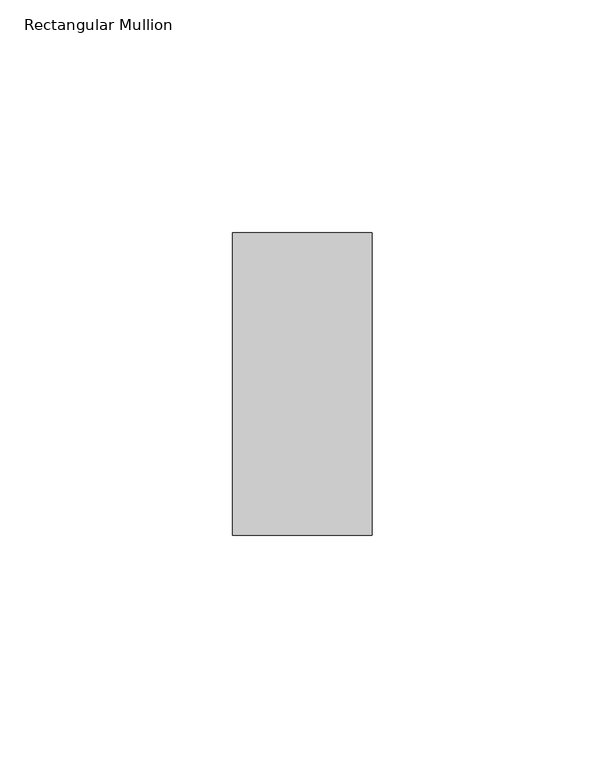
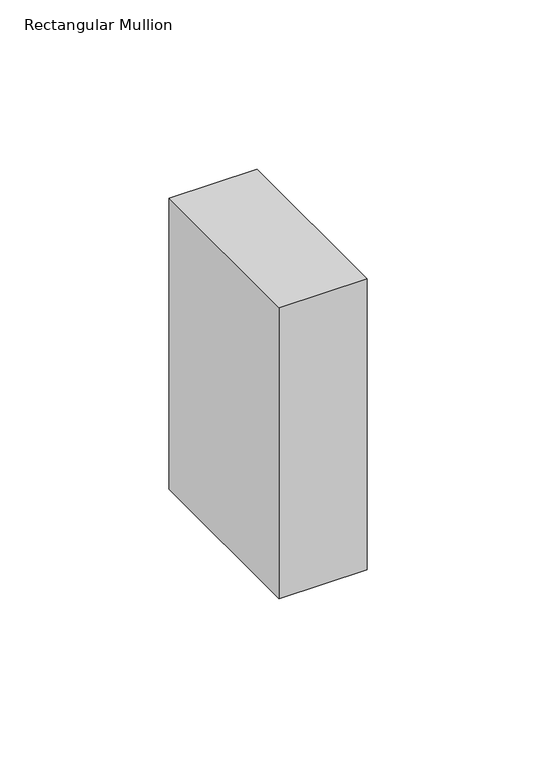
"""IFC4 building model written with IfcOpenShell, lengths in millimetres: member geometry, Rectangular Mullion : Batten_Timber_Modinex_Austratus_Grid_Fascia_30x65_AlaskanYellowCedar."""

import ifcopenshell
import ifcopenshell.guid

model = None  # the IFC model being written
_history = None  # IfcOwnerHistory: only IFC2X3 demands one
_inside = {}  # id of a spatial element -> (the spatial element, [elements in it])
_under = {}  # id of a project, library or spatial element -> (it, [spatial elements below it])
_declared = {}  # id of a project -> (the project, [libraries it declares])
_typed = {}  # id of a type object -> (the type object, [elements of that type])
_made_of = {}  # id of a material, layer set ... -> (it, [elements and type objects made of it])


def new_model(schema):
    """Start an empty IFC model of exactly this schema.

    Asked for "IFC4X3", IfcOpenShell would pick the latest addendum, in which some entities
    have other attributes; the version numbers below select the first issue.
    IFC2X3 requires an IfcOwnerHistory on every rooted entity: one is made here for all.
    """
    global model, _history
    if schema == "IFC4X3":
        model = ifcopenshell.file(schema_version=(4, 3, 0, 0))
    else:
        model = ifcopenshell.file(schema=schema)
    _inside.clear()
    _under.clear()
    _declared.clear()
    _typed.clear()
    _made_of.clear()
    _history = None
    if model.schema == "IFC2X3":
        org = make("IfcOrganization", Name="unknown")
        user = make(
            "IfcPersonAndOrganization",
            ThePerson=make("IfcPerson", FamilyName="unknown"),
            TheOrganization=org,
        )
        app = make(
            "IfcApplication",
            ApplicationDeveloper=org,
            Version="unknown",
            ApplicationFullName="unknown",
            ApplicationIdentifier="unknown",
        )
        _history = make(
            "IfcOwnerHistory",
            OwningUser=user,
            OwningApplication=app,
            ChangeAction="ADDED",
            CreationDate=0,
        )
    return model


def make(cls, **values):
    """One entity of the class cls with the attributes given. An attribute that is None is left unset."""
    return model.create_entity(
        cls, **{name: value for name, value in values.items() if value is not None}
    )


def rooted(cls, **values):
    """An entity with a GlobalId (a new one), such as an element, a storey or a relation."""
    return make(cls, GlobalId=ifcopenshell.guid.new(), OwnerHistory=_history, **values)


def si_unit(unit_type, name, prefix=None):
    """IfcSIUnit, for example si_unit("LENGTHUNIT", "METRE", prefix="MILLI")."""
    return make("IfcSIUnit", UnitType=unit_type, Prefix=prefix, Name=name)


def assignment(units):
    """IfcUnitAssignment: the units of a project."""
    return None if units is None else make("IfcUnitAssignment", Units=units)


def point(xyz):
    """IfcCartesianPoint."""
    return None if xyz is None else make("IfcCartesianPoint", Coordinates=xyz)


def direction(xyz):
    """IfcDirection."""
    return None if xyz is None else make("IfcDirection", DirectionRatios=xyz)


def frame(location, z_axis=None, x_axis=None):
    """IfcAxis2Placement3D, a coordinate frame: its origin and axes. An axis left out is left unset."""
    return make(
        "IfcAxis2Placement3D",
        Location=point(location),
        Axis=direction(z_axis),
        RefDirection=direction(x_axis),
    )


def origin():
    """The frame at (0, 0, 0) with its axes left unset."""
    return frame((0.0, 0.0, 0.0))


def place(relative_to, where):
    """IfcLocalPlacement: puts the frame where relative to a parent placement (None: the world)."""
    return make(
        "IfcLocalPlacement", PlacementRelTo=relative_to, RelativePlacement=where
    )


def context(
    kind, dimensions, precision=None, world=None, true_north=None, identifier=None
):
    """IfcGeometricRepresentationContext, for example the 3D "Model" context."""
    return make(
        "IfcGeometricRepresentationContext",
        ContextIdentifier=identifier,
        ContextType=kind,
        CoordinateSpaceDimension=dimensions,
        Precision=precision,
        WorldCoordinateSystem=world,
        TrueNorth=true_north,
    )


def project(units=None, contexts=None):
    """IfcProject with its units and contexts."""
    return rooted(
        "IfcProject",
        Name="project",
        RepresentationContexts=contexts,
        UnitsInContext=assignment(units),
    )


def spatial(cls, under=None, at=None, **own):
    """A site, building, storey or space (cls), placed at a placement, below another one or the project."""
    s = rooted(cls, ObjectPlacement=at, **own)
    if under is not None:
        _under.setdefault(under.id(), (under, []))[1].append(s)
    return s


def polyline(points):
    """IfcPolyline through the points."""
    return make("IfcPolyline", Points=[point(p) for p in points])


def outline(outer, holes=None, kind="AREA"):
    """IfcArbitraryClosedProfileDef: a profile drawn as a closed curve; with holes, ...WithVoids."""
    if holes is None:
        return make("IfcArbitraryClosedProfileDef", ProfileType=kind, OuterCurve=outer)
    return make(
        "IfcArbitraryProfileDefWithVoids",
        ProfileType=kind,
        OuterCurve=outer,
        InnerCurves=holes,
    )


def extrude(swept, where, along, depth):
    """IfcExtrudedAreaSolid: the profile swept, set in the frame where, extruded along a direction by depth."""
    return make(
        "IfcExtrudedAreaSolid",
        SweptArea=swept,
        Position=where,
        ExtrudedDirection=direction(along),
        Depth=depth,
    )


def shape(context_of_items, identifier, shape_type, items):
    """IfcShapeRepresentation: the items that make up one representation, for example the "Body"."""
    return make(
        "IfcShapeRepresentation",
        ContextOfItems=context_of_items,
        RepresentationIdentifier=identifier,
        RepresentationType=shape_type,
        Items=items,
    )


def source(mapping_origin, context_of_items, identifier, shape_type, items):
    """IfcRepresentationMap: a shape defined once, which mapped items show again and again."""
    return make(
        "IfcRepresentationMap",
        MappingOrigin=mapping_origin,
        MappedRepresentation=shape(context_of_items, identifier, shape_type, items),
    )


def transform(
    local_origin,
    x_axis=None,
    y_axis=None,
    z_axis=None,
    scale=None,
    scale2=None,
    scale3=None,
    uniform=True,
):
    """IfcCartesianTransformationOperator3D, or its non-uniform kind. x_axis, y_axis, z_axis: its Axis1, 2, 3."""
    if uniform:
        return make(
            "IfcCartesianTransformationOperator3D",
            Axis1=direction(x_axis),
            Axis2=direction(y_axis),
            LocalOrigin=point(local_origin),
            Scale=scale,
            Axis3=direction(z_axis),
        )
    return make(
        "IfcCartesianTransformationOperator3DnonUniform",
        Axis1=direction(x_axis),
        Axis2=direction(y_axis),
        LocalOrigin=point(local_origin),
        Scale=scale,
        Axis3=direction(z_axis),
        Scale2=scale2,
        Scale3=scale3,
    )


def mapped(mapping_source, mapping_target):
    """IfcMappedItem: shows the shape of a source again, moved by a transform."""
    return make(
        "IfcMappedItem", MappingSource=mapping_source, MappingTarget=mapping_target
    )


def made_of(thing, what):
    """Note that an element or type object is made of a material, layer set ...; save() writes the relation."""
    if what is not None:
        _made_of.setdefault(what.id(), (what, []))[1].append(thing)
    return thing


def element(
    cls,
    number,
    at=None,
    inside=None,
    cuts=None,
    type_object=None,
    material=None,
    context=None,
    identifier="Body",
    shape_type=None,
    held_by="IfcProductDefinitionShape",
    body=None,
    shapes=None,
    **own,
):
    """One element of the class cls, such as IfcWall. Its Tag is "e" and its number.

    at: its placement. inside: the storey or other place that contains it. cuts: it is an
    opening in that element (IfcRelVoidsElement). A single representation is given by context,
    identifier, shape_type and body (its items); several are given by shapes. held_by: the class
    of the entity that holds the representations. save() writes the other relations.
    """
    e = rooted(cls, Tag="e%d" % number, ObjectPlacement=at, **own)
    if body is not None:
        shapes = [shape(context, identifier, shape_type, body)]
    if shapes is not None:
        e.Representation = make(held_by, Representations=shapes)
    if inside is not None:
        _inside.setdefault(inside.id(), (inside, []))[1].append(e)
    if cuts is not None:
        rooted(
            "IfcRelVoidsElement", RelatingBuildingElement=cuts, RelatedOpeningElement=e
        )
    if type_object is not None:
        _typed.setdefault(type_object.id(), (type_object, []))[1].append(e)
    return made_of(e, material)


def aggregate(whole, parts):
    """IfcRelAggregates: a whole, such as a stair, and the parts it consists of."""
    return rooted("IfcRelAggregates", RelatingObject=whole, RelatedObjects=parts)


def save(model, path):
    """Write the relations noted so far, then the file.

    IfcRelAggregates (storeys below a building ...), IfcRelContainedInSpatialStructure (elements
    in a storey), IfcRelDefinesByType, IfcRelAssociatesMaterial and IfcRelDeclares: one each for
    every whole, place, type object, material and project.
    """
    for whole, parts in _under.values():
        aggregate(whole, parts)
    for where, things in _inside.values():
        rooted(
            "IfcRelContainedInSpatialStructure",
            RelatedElements=things,
            RelatingStructure=where,
        )
    for kind, things in _typed.values():
        rooted("IfcRelDefinesByType", RelatedObjects=things, RelatingType=kind)
    for what, things in _made_of.values():
        rooted("IfcRelAssociatesMaterial", RelatedObjects=things, RelatingMaterial=what)
    for by, libraries in _declared.values():
        rooted("IfcRelDeclares", RelatingContext=by, RelatedDefinitions=libraries)
    model.write(path)


def rectangular_mullion_27b03f3e(model_context):
    return source(origin(), model_context, "Body", "SweptSolid", [
        extrude(outline(polyline([(0.0, 65.0), (0.0, 0.0), (-30.0, 0.0), (-30.0, 65.0), (0.0, 65.0)])), frame((0.0, 0.0, -105.0000003), z_axis=(0.0, 0.0, 1.0), x_axis=(1.0, 0.0, 0.0)), (0.0, 0.0, 1.0), 105.0000003),
    ])


if __name__ == "__main__":
    model = new_model("IFC4")
    model_context = context("Model", 3, world=origin())
    ifc_project = project(units=[si_unit("LENGTHUNIT", "METRE", prefix="MILLI")], contexts=[model_context])
    site = spatial("IfcSite", under=ifc_project)
    building = spatial("IfcBuilding", under=site)
    placement = place(None, origin())
    rectangular_mullion_shape = rectangular_mullion_27b03f3e(model_context)
    element("IfcMember", 1, ObjectType="Rectangular Mullion : Batten_Timber_Modinex_Austratus_Grid_Fascia_30x65_AlaskanYellowCedar", at=placement, inside=building, context=model_context, shape_type="MappedRepresentation", body=[
        mapped(rectangular_mullion_shape, transform((0.0, 0.0, 0.0), x_axis=(1.0, 0.0, 0.0), y_axis=(0.0, 1.0, 0.0), z_axis=(0.0, 0.0, 1.0))),
    ])
    save(model, "model.ifc")
